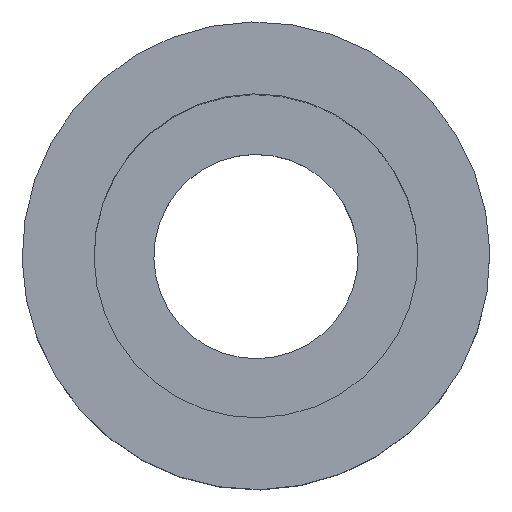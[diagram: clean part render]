
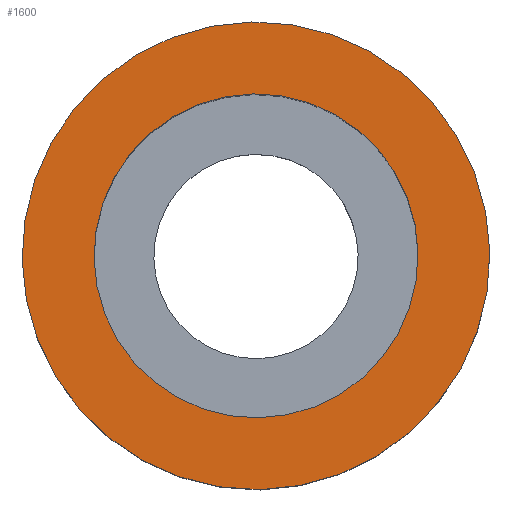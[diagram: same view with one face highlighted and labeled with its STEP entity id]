
A CAD part, top view. The second image highlights one B-rep face of the part: STEP entity #1600.
In plain terms, the highlighted planar face has unit normal (0, 0, 1).
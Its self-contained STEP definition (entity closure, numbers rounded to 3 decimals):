
#1250=CARTESIAN_POINT('',(26.913,42.007,
69.615));
#1260=DIRECTION('',(0.,0.,1.));
#1270=DIRECTION('',(-0.018,1.,0.));
#1280=AXIS2_PLACEMENT_3D('',#1250,#1260,#1270);
#1290=PLANE('',#1280);
#1300=CARTESIAN_POINT('',(26.653,56.805,69.615));
#1310=DIRECTION('',(0.,0.,1.));
#1320=DIRECTION('',(-0.018,1.,0.));
#1330=AXIS2_PLACEMENT_3D('',#1300,#1310,#1320);
#1340=CIRCLE('',#1330,11.1);
#1350=CARTESIAN_POINT('',(26.457,67.903,
69.615));
#1360=VERTEX_POINT('',#1350);
#1370=CARTESIAN_POINT('',(26.848,45.707,
69.615));
#1380=VERTEX_POINT('',#1370);
#1390=EDGE_CURVE('',#1360,#1380,#1340,.T.);
#1400=ORIENTED_EDGE('',*,*,#1390,.F.);
#1410=EDGE_CURVE('',#1380,#1360,#1340,.T.);
#1420=ORIENTED_EDGE('',*,*,#1410,.F.);
#1430=EDGE_LOOP('',(#1420,#1400));
#1440=FACE_BOUND('',#1430,.T.);
#1450=CARTESIAN_POINT('',(26.653,56.805,69.615));
#1460=DIRECTION('',(0.,0.,-1.));
#1470=DIRECTION('',(-0.018,1.,
0.));
#1480=AXIS2_PLACEMENT_3D('',#1450,#1460,#1470);
#1490=CIRCLE('',#1480,16.025);
#1500=CARTESIAN_POINT('',(26.37,72.827,
69.615));
#1510=VERTEX_POINT('',#1500);
#1520=CARTESIAN_POINT('',(26.935,40.782,
69.615));
#1530=VERTEX_POINT('',#1520);
#1540=EDGE_CURVE('',#1510,#1530,#1490,.T.);
#1550=ORIENTED_EDGE('',*,*,#1540,.F.);
#1560=EDGE_CURVE('',#1530,#1510,#1490,.T.);
#1570=ORIENTED_EDGE('',*,*,#1560,.F.);
#1580=EDGE_LOOP('',(#1570,#1550));
#1590=FACE_OUTER_BOUND('',#1580,.T.);
#1600=ADVANCED_FACE('',(#1440,#1590),#1290,.T.);
